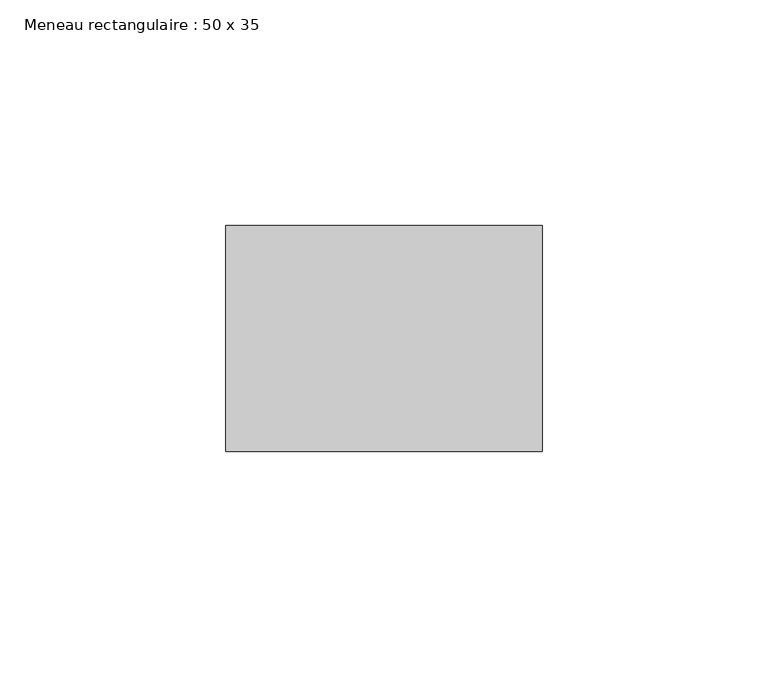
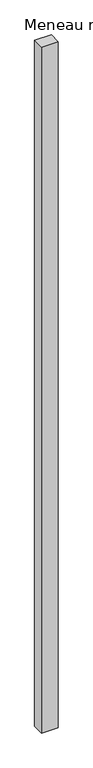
"""IFC4 building model written with IfcOpenShell, lengths in millimetres: member geometry, Meneau rectangulaire : 50 x 35."""

from ifc_helpers import new_model, si_unit, frame, origin, place, context, project, spatial, polyline, outline, extrude, source, transform, mapped, element, save


def meneau_rectangulaire_50_x_35_c0bad670(model_context):
    return source(origin(), model_context, "Body", "SweptSolid", [
        extrude(outline(polyline([(0.0, 0.0), (0.0, -50.0), (-70.0, -50.0), (-70.0, 0.0), (0.0, 0.0)])), frame((0.0, 0.0, -3049.7456561), z_axis=(0.0, 0.0, 1.0), x_axis=(1.0, 0.0, 0.0)), (0.0, 0.0, 1.0), 3049.7456561),
    ])


if __name__ == "__main__":
    model = new_model("IFC4")
    model_context = context("Model", 3, world=origin())
    ifc_project = project(units=[si_unit("LENGTHUNIT", "METRE", prefix="MILLI")], contexts=[model_context])
    site = spatial("IfcSite", under=ifc_project)
    building = spatial("IfcBuilding", under=site)
    placement = place(None, origin())
    meneau_rectangulaire_50_x_35_shape = meneau_rectangulaire_50_x_35_c0bad670(model_context)
    element("IfcMember", 1, ObjectType="Meneau rectangulaire : 50 x 35", at=placement, inside=building, context=model_context, shape_type="MappedRepresentation", body=[
        mapped(meneau_rectangulaire_50_x_35_shape, transform((0.0, 0.0, 0.0), x_axis=(1.0, 0.0, 0.0), y_axis=(0.0, 1.0, 0.0), z_axis=(0.0, 0.0, 1.0))),
    ])
    save(model, "model.ifc")
